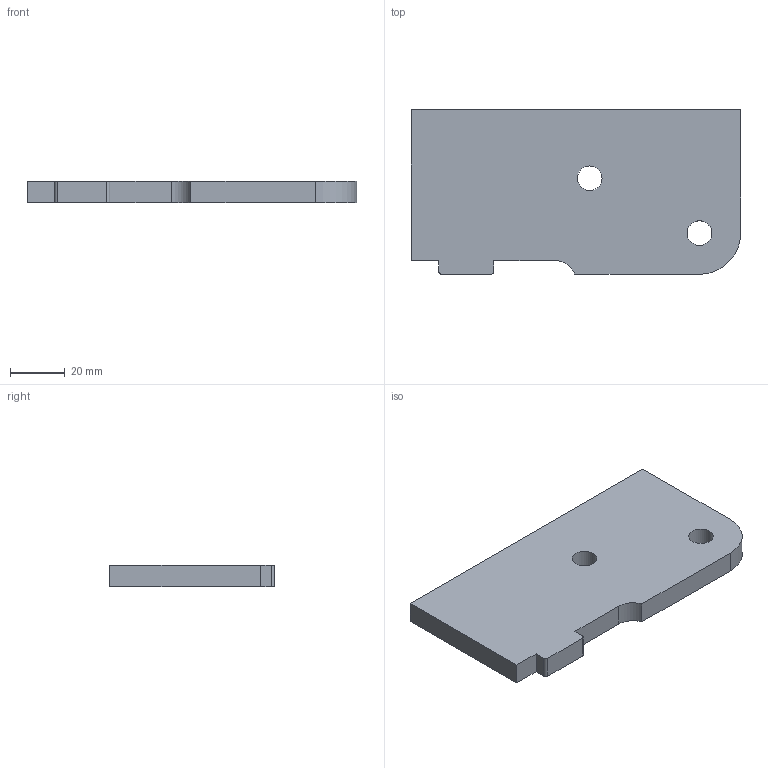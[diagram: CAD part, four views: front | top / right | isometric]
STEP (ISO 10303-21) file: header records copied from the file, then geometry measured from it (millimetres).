
FILE_DESCRIPTION(/* description */ (''),/* implementation_level */ '2;1');
FILE_NAME(/* name */ 'Pos151-Plaatwerk D= 8-S235JRG2-3st',/* time_stamp */ '2024-08-06T13:37:45+02:00',/* author */ (''),/* organization */ (''),/* preprocessor_version */ 'ST-DEVELOPER v16.5',/* originating_system */ 'HiCAD 2024 2901.2 Build 361',/* authorisation */ '');
FILE_SCHEMA (('AUTOMOTIVE_DESIGN { 1 0 10303 214 1 1 1 1 }'));
Length unit declared in the file: millimetre
Products named in the file (1): Pos151-Plaatwerk D= 8-S235JRG2-3st
Bounding box: 120 x 60 x 8 mm (x, y, z)
Volume: 54685.9 mm3; surface area: 17002.8 mm2
Topology: 1 solids, 1 shells, 17 faces, 47 edges, 32 vertices
Faces by surface type: plane 11, cylinder 6
Full cylindrical faces by diameter (mm): 9 x2
Entity records: 977 total; most frequent: CARTESIAN_POINT 90, DIRECTION 89, PRESENTATION_STYLE_ASSIGNMENT 87, COLOUR_RGB 87, DRAUGHTING_PRE_DEFINED_CURVE_FONT 86, CURVE_STYLE 86, OVER_RIDING_STYLED_ITEM 86, ORIENTED_EDGE 86
